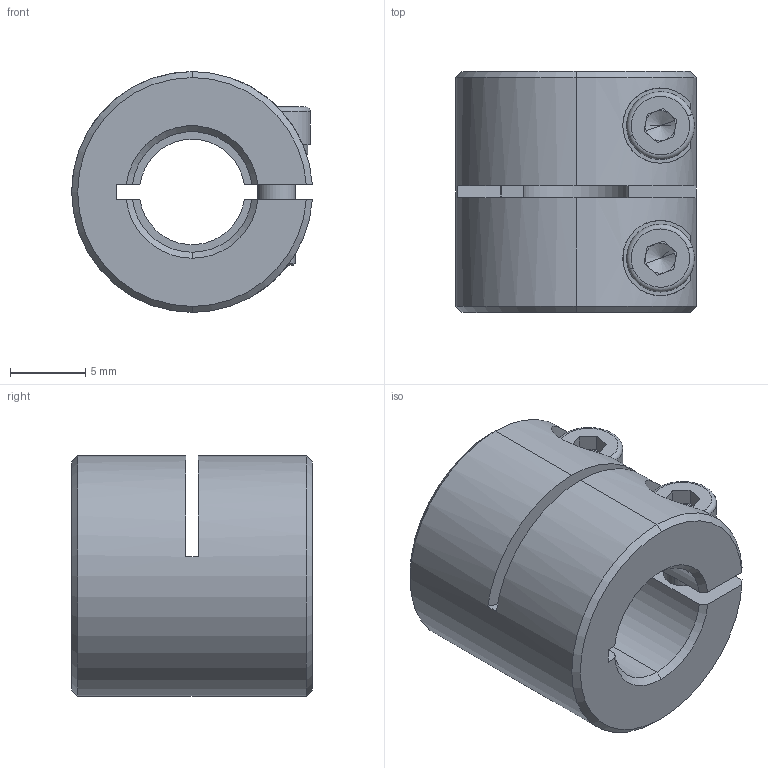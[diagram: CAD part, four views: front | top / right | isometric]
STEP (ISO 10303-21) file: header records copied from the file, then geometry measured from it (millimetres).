
FILE_DESCRIPTION (( 'STEP AP203' ), '1' );
FILE_NAME ('LL-B-D16L16-7-8.STEP', '2021-11-03T02:53:02', ( '' ), ( '' ), 'SwSTEP 2.0', 'SolidWorks 2018', '' );
FILE_SCHEMA (( 'CONFIG_CONTROL_DESIGN' ));
Length unit declared in the file: millimetre
Products named in the file (1): LL-B-D16L16-7-8
Bounding box: 15.98 x 16 x 16 mm (x, y, z)
Volume: 2326.9 mm3; surface area: 1999.8 mm2
Topology: 1 solids, 1 shells, 121 faces, 316 edges, 198 vertices
Faces by surface type: plane 52, cylinder 45, cone 20, torus 4
Entity records: 3977 total; most frequent: CARTESIAN_POINT 887, DIRECTION 656, ORIENTED_EDGE 624, EDGE_CURVE 312, AXIS2_PLACEMENT_3D 255, VERTEX_POINT 198, LINE 146, VECTOR 146
